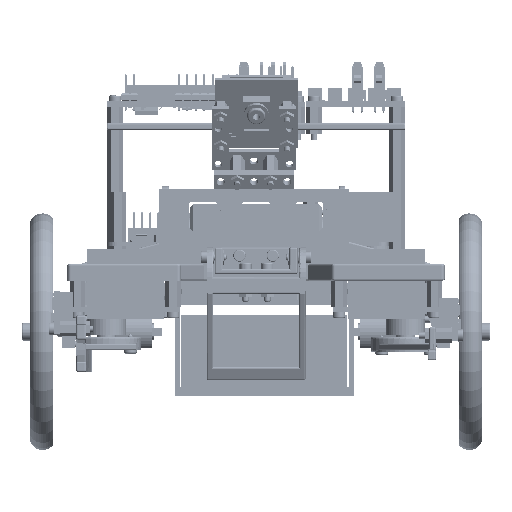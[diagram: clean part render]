
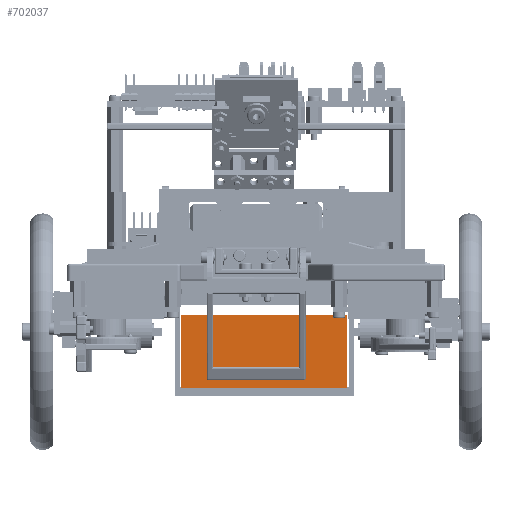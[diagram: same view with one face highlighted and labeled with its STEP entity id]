
A CAD part, front view. The second image highlights one B-rep face of the part: STEP entity #702037.
In plain terms, the highlighted planar face has unit normal (0, -1, 0) as drawn and (0, 0, 1) by its records, which use the part's own axes.
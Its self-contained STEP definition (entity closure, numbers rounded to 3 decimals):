
#83525=FACE_OUTER_BOUND('',#131020,.T.);
#131020=EDGE_LOOP('',(#637790,#637791,#637792,#637793));
#209461=LINE('',#1159866,#287908);
#209467=LINE('',#1159881,#287914);
#209468=LINE('',#1159883,#287915);
#209469=LINE('',#1159884,#287916);
#287908=VECTOR('',#936232,10.);
#287914=VECTOR('',#936246,10.);
#287915=VECTOR('',#936249,10.);
#287916=VECTOR('',#936250,10.);
#351090=VERTEX_POINT('',#1159862);
#351092=VERTEX_POINT('',#1159865);
#351096=VERTEX_POINT('',#1159877);
#351097=VERTEX_POINT('',#1159879);
#446664=EDGE_CURVE('',#351090,#351092,#209461,.T.);
#446672=EDGE_CURVE('',#351096,#351097,#209467,.T.);
#446673=EDGE_CURVE('',#351096,#351090,#209468,.T.);
#446674=EDGE_CURVE('',#351092,#351097,#209469,.T.);
#637790=ORIENTED_EDGE('',*,*,#446673,.F.);
#637791=ORIENTED_EDGE('',*,*,#446672,.T.);
#637792=ORIENTED_EDGE('',*,*,#446674,.F.);
#637793=ORIENTED_EDGE('',*,*,#446664,.F.);
#665723=PLANE('',#754732);
#702037=ADVANCED_FACE('',(#83525),#665723,.T.);
#754732=AXIS2_PLACEMENT_3D('',#1159882,#936247,#936248);
#936232=DIRECTION('',(1.,0.,0.));
#936246=DIRECTION('',(1.,0.,0.));
#936247=DIRECTION('center_axis',(0.,0.,1.));
#936248=DIRECTION('ref_axis',(0.,-1.,0.));
#936249=DIRECTION('',(0.,1.,0.));
#936250=DIRECTION('',(0.,-1.,0.));
#1159862=CARTESIAN_POINT('',(0.,22.,0.));
#1159865=CARTESIAN_POINT('',(50.,22.,0.));
#1159866=CARTESIAN_POINT('',(0.,22.,0.));
#1159877=CARTESIAN_POINT('',(0.,0.,0.));
#1159879=CARTESIAN_POINT('',(50.,0.,0.));
#1159881=CARTESIAN_POINT('',(0.,0.,0.));
#1159882=CARTESIAN_POINT('Origin',(0.,22.,0.));
#1159883=CARTESIAN_POINT('',(0.,0.,0.));
#1159884=CARTESIAN_POINT('',(50.,0.,0.));
